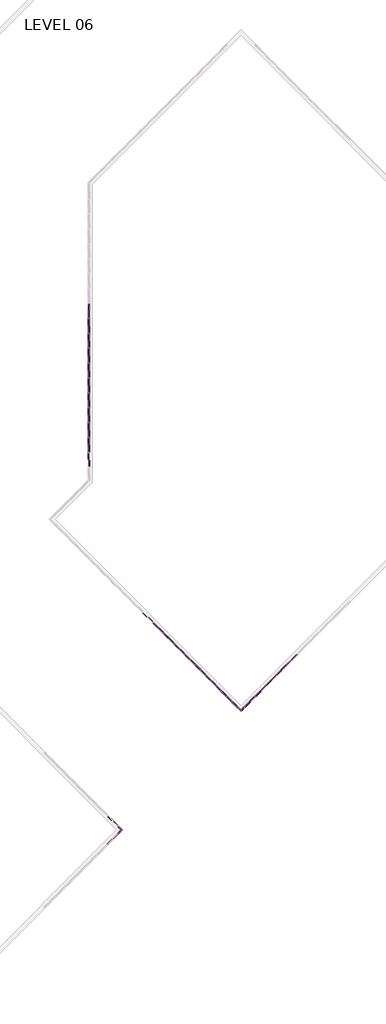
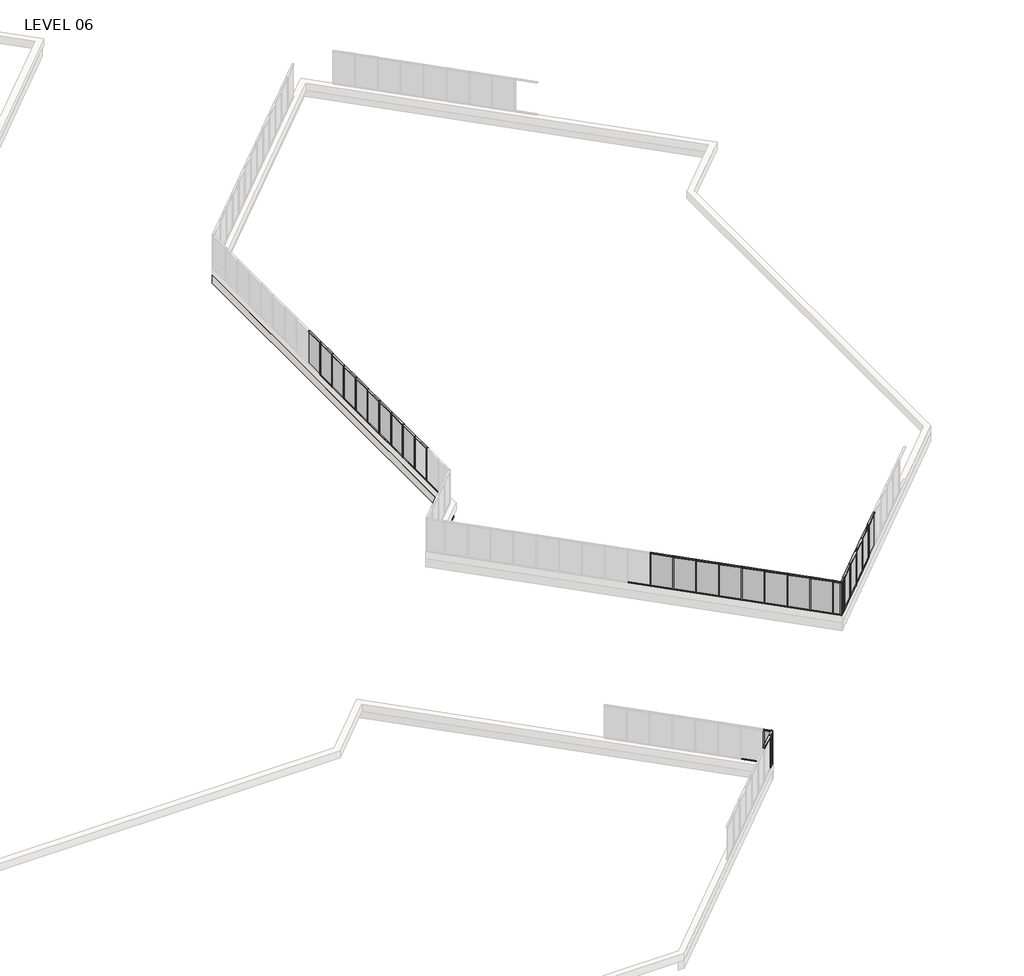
# One storey, part 10 of 17: 86 members, 26 plates, 1 wall.
"""IFC4 building model written with IfcOpenShell, lengths in millimetres."""

from ifc_helpers import new_model, si_unit, origin, place, context, project, spatial, faceted_brep, transform, mapped, element, save
from components import member_5247f267, member_e44af9ab, member_800970d4, member_ac5115e9, member_25b26a38, member_910c08c9, plate_c01932d8, plate_6d527a83, plate_67294edd

model = new_model("IFC4")

# Units and contexts
model_context = context("Model", 3, world=origin())
ifc_project = project(units=[si_unit("LENGTHUNIT", "METRE", prefix="MILLI")], contexts=[model_context])

# Site, building, storey
site = spatial("IfcSite", under=ifc_project)
building = spatial("IfcBuilding", under=site)
storey = spatial("IfcBuildingStorey", under=building, Name="LEVEL 06", Elevation=19596.1)

# Members
placement = place(None, origin())
member_shape = member_5247f267(model_context)
element("IfcMember", 1, ObjectType="Rectangular Mullion : 2\" x 4.5\" rectangular", at=placement, inside=storey, context=model_context, shape_type="MappedRepresentation", body=[
    mapped(member_shape, transform((64227.3404937, 10894.4485141, 19596.1), x_axis=(0.0, 0.0, -1.0), y_axis=(0.7071067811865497, 0.7071067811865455, 0.0), z_axis=(0.7071067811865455, -0.7071067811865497, 0.0))),
])
element("IfcMember", 2, ObjectType="Rectangular Mullion : 2\" x 4.5\" rectangular", at=placement, inside=storey, context=model_context, shape_type="MappedRepresentation", body=[
    mapped(member_shape, transform((64227.5191663, 10093.8459028, 22186.9), x_axis=(0.0, 0.0, 1.0), y_axis=(0.7071067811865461, -0.7071067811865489, 0.0), z_axis=(0.7071067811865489, 0.7071067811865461, 0.0))),
])
member_2_shape = member_e44af9ab(model_context)
element("IfcMember", 3, ObjectType="Rectangular Mullion : 2\" x 4.5\" rectangular", at=placement, inside=storey, context=model_context, shape_type="MappedRepresentation", body=[
    mapped(member_2_shape, transform((64245.4796786, 10111.8064151, 19596.1), x_axis=(0.7071067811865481, 0.7071067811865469, 0.0), y_axis=(0.7071067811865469, -0.7071067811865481, 0.0), z_axis=(0.0, 0.0, -1.0))),
])
element("IfcMember", 4, ObjectType="Rectangular Mullion : 2\" x 4.5\" rectangular", at=placement, inside=storey, context=model_context, shape_type="MappedRepresentation", body=[
    mapped(member_2_shape, transform((64245.3010059, 10876.4880018, 19596.1), x_axis=(-0.7071067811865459, 0.7071067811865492, 0.0), y_axis=(0.7071067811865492, 0.7071067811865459, 0.0), z_axis=(0.0, 0.0, -1.0))),
])
member_3_shape = member_800970d4(model_context)
element("IfcMember", 5, ObjectType="Rectangular Mullion : 2\" x 4.5\" rectangular", at=placement, inside=storey, context=model_context, shape_type="MappedRepresentation", body=[
    mapped(member_3_shape, transform((64627.7311356, 10494.0578721, 19596.1), x_axis=(0.7071067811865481, 0.7071067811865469, 0.0), y_axis=(0.7071067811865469, -0.7071067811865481, 0.0), z_axis=(0.0, 0.0, -1.0))),
])
element("IfcMember", 6, ObjectType="Rectangular Mullion : 2\" x 4.5\" rectangular", at=placement, inside=storey, context=model_context, shape_type="MappedRepresentation", body=[
    mapped(member_3_shape, transform((64627.7311356, 10494.0578721, 22186.9), x_axis=(0.7071067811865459, -0.7071067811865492, 0.0), y_axis=(0.7071067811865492, 0.7071067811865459, 0.0), z_axis=(0.0, 0.0, 1.0))),
])
member_4_shape = member_ac5115e9(model_context)
element("IfcMember", 7, ObjectType="Rectangular Mullion : 2\" x 4.5\" rectangular", at=placement, inside=storey, context=model_context, shape_type="MappedRepresentation", body=[
    mapped(member_4_shape, transform((64591.8101111, 10458.1368476, 22186.9), x_axis=(0.0, 0.0, 1.0), y_axis=(0.7071067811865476, -0.7071067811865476, 0.0), z_axis=(0.7071067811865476, 0.7071067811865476, 0.0))),
])
element("IfcMember", 8, ObjectType="Rectangular Mullion : 2\" x 4.5\" rectangular", at=placement, inside=storey, context=model_context, shape_type="MappedRepresentation", body=[
    mapped(member_4_shape, transform((64263.4401908, 10129.7669273, 19596.1), x_axis=(0.0, 0.0, -1.0), y_axis=(0.7071067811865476, -0.7071067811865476, 0.0), z_axis=(-0.7071067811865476, -0.7071067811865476, 0.0))),
])
member_5_shape = member_25b26a38(model_context)
element("IfcMember", 9, ObjectType="Rectangular Mullion : 2\" x 4.5\" rectangular", at=placement, inside=storey, context=model_context, shape_type="MappedRepresentation", body=[
    mapped(member_5_shape, transform((64591.8101111, 10529.9788966, 19596.1), x_axis=(0.0, 0.0, -1.0), y_axis=(0.7071067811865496, 0.7071067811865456, 0.0), z_axis=(0.7071067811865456, -0.7071067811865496, 0.0))),
])
element("IfcMember", 10, ObjectType="Rectangular Mullion : 2\" x 4.5\" rectangular", at=placement, inside=storey, context=model_context, shape_type="MappedRepresentation", body=[
    mapped(member_5_shape, transform((64263.2615182, 10858.5274896, 22186.9), x_axis=(0.0, 0.0, 1.0), y_axis=(0.7071067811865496, 0.7071067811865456, 0.0), z_axis=(-0.7071067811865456, 0.7071067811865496, 0.0))),
])
element("IfcMember", 11, ObjectType="Rectangular Mullion : 2\" x 4.5\" rectangular", at=placement, inside=storey, context=model_context, shape_type="MappedRepresentation", body=[
    mapped(member_shape, transform((78327.7024202, 24194.0291567, 22186.9), x_axis=(0.0, 0.0, 1.0), y_axis=(-0.7071067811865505, 0.7071067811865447, 0.0), z_axis=(-0.7071067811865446, -0.7071067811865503, 0.0))),
])
element("IfcMember", 12, ObjectType="Rectangular Mullion : 2\" x 4.5\" rectangular", at=placement, inside=storey, context=model_context, shape_type="MappedRepresentation", body=[
    mapped(member_shape, transform((81560.5946238, 27426.9213603, 22186.9), x_axis=(0.0, 0.0, 1.0), y_axis=(-0.7071067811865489, 0.7071067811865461, 0.0), z_axis=(-0.7071067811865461, -0.7071067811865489, 0.0))),
])
element("IfcMember", 13, ObjectType="Rectangular Mullion : 2\" x 4.5\" rectangular", at=placement, inside=storey, context=model_context, shape_type="MappedRepresentation", body=[
    mapped(member_shape, transform((80482.9638893, 26349.2906258, 22186.9), x_axis=(0.0, 0.0, 1.0), y_axis=(-0.7071067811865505, 0.7071067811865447, 0.0), z_axis=(-0.7071067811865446, -0.7071067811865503, 0.0))),
])
element("IfcMember", 14, ObjectType="Rectangular Mullion : 2\" x 4.5\" rectangular", at=placement, inside=storey, context=model_context, shape_type="MappedRepresentation", body=[
    mapped(member_shape, transform((79405.3331548, 25271.6598913, 22186.9), x_axis=(0.0, 0.0, 1.0), y_axis=(-0.7071067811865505, 0.7071067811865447, 0.0), z_axis=(-0.7071067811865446, -0.7071067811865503, 0.0))),
])
element("IfcMember", 15, ObjectType="Rectangular Mullion : 2\" x 4.5\" rectangular", at=placement, inside=storey, context=model_context, shape_type="MappedRepresentation", body=[
    mapped(member_shape, transform((77250.0716857, 23116.3984222, 22186.9), x_axis=(0.0, 0.0, 1.0), y_axis=(-0.7071067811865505, 0.7071067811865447, 0.0), z_axis=(-0.7071067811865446, -0.7071067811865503, 0.0))),
])
element("IfcMember", 16, ObjectType="Rectangular Mullion : 2\" x 4.5\" rectangular", at=placement, inside=storey, context=model_context, shape_type="MappedRepresentation", body=[
    mapped(member_shape, transform((75407.7593644, 24158.2868049, 22186.9), x_axis=(0.0, 0.0, 1.0), y_axis=(0.7071067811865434, 0.7071067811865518, 0.0), z_axis=(-0.7071067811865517, 0.7071067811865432, 0.0))),
])
element("IfcMember", 17, ObjectType="Rectangular Mullion : 2\" x 4.5\" rectangular", at=placement, inside=storey, context=model_context, shape_type="MappedRepresentation", body=[
    mapped(member_shape, transform((74330.1286299, 25235.9175394, 22186.9), x_axis=(0.0, 0.0, 1.0), y_axis=(0.7071067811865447, 0.7071067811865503, 0.0), z_axis=(-0.7071067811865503, 0.7071067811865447, 0.0))),
])
element("IfcMember", 18, ObjectType="Rectangular Mullion : 2\" x 4.5\" rectangular", at=placement, inside=storey, context=model_context, shape_type="MappedRepresentation", body=[
    mapped(member_shape, transform((73252.4978954, 26313.5482739, 22186.9), x_axis=(0.0, 0.0, 1.0), y_axis=(0.7071067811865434, 0.7071067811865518, 0.0), z_axis=(-0.7071067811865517, 0.7071067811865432, 0.0))),
])
element("IfcMember", 19, ObjectType="Rectangular Mullion : 2\" x 4.5\" rectangular", at=placement, inside=storey, context=model_context, shape_type="MappedRepresentation", body=[
    mapped(member_shape, transform((71097.2364263, 28468.809743, 22186.9), x_axis=(0.0, 0.0, 1.0), y_axis=(0.7071067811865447, 0.7071067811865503, 0.0), z_axis=(-0.7071067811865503, 0.7071067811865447, 0.0))),
])
element("IfcMember", 20, ObjectType="Rectangular Mullion : 2\" x 4.5\" rectangular", at=placement, inside=storey, context=model_context, shape_type="MappedRepresentation", body=[
    mapped(member_shape, transform((70019.6056918, 29546.4404775, 22186.9), x_axis=(0.0, 0.0, 1.0), y_axis=(0.7071067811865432, 0.7071067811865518, 0.0), z_axis=(-0.7071067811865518, 0.7071067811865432, 0.0))),
])
element("IfcMember", 21, ObjectType="Rectangular Mullion : 2\" x 4.5\" rectangular", at=placement, inside=storey, context=model_context, shape_type="MappedRepresentation", body=[
    mapped(member_shape, transform((68941.9749572, 30624.071212, 22186.9), x_axis=(0.0, 0.0, 1.0), y_axis=(0.7071067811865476, 0.7071067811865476, 0.0), z_axis=(-0.7071067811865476, 0.7071067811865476, 0.0))),
])
element("IfcMember", 22, ObjectType="Rectangular Mullion : 2\" x 4.5\" rectangular", at=placement, inside=storey, context=model_context, shape_type="MappedRepresentation", body=[
    mapped(member_shape, transform((67864.3442227, 31701.7019466, 22186.9), x_axis=(0.0, 0.0, 1.0), y_axis=(0.7071067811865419, 0.7071067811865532, 0.0), z_axis=(-0.7071067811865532, 0.7071067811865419, 0.0))),
])
element("IfcMember", 23, ObjectType="Rectangular Mullion : 2\" x 4.5\" rectangular", at=placement, inside=storey, context=model_context, shape_type="MappedRepresentation", body=[
    mapped(member_shape, transform((72174.8671608, 27391.1790085, 22186.9), x_axis=(0.0, 0.0, 1.0), y_axis=(0.7071067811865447, 0.7071067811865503, 0.0), z_axis=(-0.7071067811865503, 0.7071067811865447, 0.0))),
])
element("IfcMember", 24, ObjectType="Rectangular Mullion : 2\" x 4.5\" rectangular", at=placement, inside=storey, context=model_context, shape_type="MappedRepresentation", body=[
    mapped(member_shape, transform((61263.7847164, 62877.3675885, 22186.9), x_axis=(0.0, 0.0, 1.0), y_axis=(-1.0, 0.0, 0.0), z_axis=(0.0, -1.0, 0.0))),
])
element("IfcMember", 25, ObjectType="Rectangular Mullion : 2\" x 4.5\" rectangular", at=placement, inside=storey, context=model_context, shape_type="MappedRepresentation", body=[
    mapped(member_shape, transform((61263.7847164, 59829.3675885, 22186.9), x_axis=(0.0, 0.0, 1.0), y_axis=(-1.0, 0.0, 0.0), z_axis=(0.0, -1.0, 0.0))),
])
element("IfcMember", 26, ObjectType="Rectangular Mullion : 2\" x 4.5\" rectangular", at=placement, inside=storey, context=model_context, shape_type="MappedRepresentation", body=[
    mapped(member_shape, transform((61263.7847164, 58305.3675885, 22186.9), x_axis=(0.0, 0.0, 1.0), y_axis=(-1.0, 0.0, 0.0), z_axis=(0.0, -1.0, 0.0))),
])
element("IfcMember", 27, ObjectType="Rectangular Mullion : 2\" x 4.5\" rectangular", at=placement, inside=storey, context=model_context, shape_type="MappedRepresentation", body=[
    mapped(member_shape, transform((61263.7847164, 56781.3675885, 22186.9), x_axis=(0.0, 0.0, 1.0), y_axis=(-1.0, 0.0, 0.0), z_axis=(0.0, -1.0, 0.0))),
])
element("IfcMember", 28, ObjectType="Rectangular Mullion : 2\" x 4.5\" rectangular", at=placement, inside=storey, context=model_context, shape_type="MappedRepresentation", body=[
    mapped(member_shape, transform((61263.7847164, 55257.3675885, 22186.9), x_axis=(0.0, 0.0, 1.0), y_axis=(-1.0, 0.0, 0.0), z_axis=(0.0, -1.0, 0.0))),
])
element("IfcMember", 29, ObjectType="Rectangular Mullion : 2\" x 4.5\" rectangular", at=placement, inside=storey, context=model_context, shape_type="MappedRepresentation", body=[
    mapped(member_shape, transform((61263.7847164, 52209.3675885, 22186.9), x_axis=(0.0, 0.0, 1.0), y_axis=(-1.0, 0.0, 0.0), z_axis=(0.0, -1.0, 0.0))),
])
element("IfcMember", 30, ObjectType="Rectangular Mullion : 2\" x 4.5\" rectangular", at=placement, inside=storey, context=model_context, shape_type="MappedRepresentation", body=[
    mapped(member_shape, transform((61263.7847164, 50685.3675885, 22186.9), x_axis=(0.0, 0.0, 1.0), y_axis=(-1.0, 0.0, 0.0), z_axis=(0.0, -1.0, 0.0))),
])
element("IfcMember", 31, ObjectType="Rectangular Mullion : 2\" x 4.5\" rectangular", at=placement, inside=storey, context=model_context, shape_type="MappedRepresentation", body=[
    mapped(member_shape, transform((61263.7847164, 49161.3675885, 22186.9), x_axis=(0.0, 0.0, 1.0), y_axis=(-1.0, 0.0, 0.0), z_axis=(0.0, -1.0, 0.0))),
])
element("IfcMember", 32, ObjectType="Rectangular Mullion : 2\" x 4.5\" rectangular", at=placement, inside=storey, context=model_context, shape_type="MappedRepresentation", body=[
    mapped(member_shape, transform((61263.7847164, 53733.3675885, 22186.9), x_axis=(0.0, 0.0, 1.0), y_axis=(-1.0, 0.0, 0.0), z_axis=(0.0, -1.0, 0.0))),
])
element("IfcMember", 33, ObjectType="Rectangular Mullion : 2\" x 4.5\" rectangular", at=placement, inside=storey, context=model_context, shape_type="MappedRepresentation", body=[
    mapped(member_shape, transform((61263.7847164, 61353.3675885, 22186.9), x_axis=(0.0, 0.0, 1.0), y_axis=(-1.0, 0.0, 0.0), z_axis=(0.0, -1.0, 0.0))),
])
element("IfcMember", 34, ObjectType="Rectangular Mullion : 2\" x 4.5\" rectangular", at=placement, inside=storey, context=model_context, shape_type="MappedRepresentation", body=[
    mapped(member_shape, transform((78291.7813957, 24158.1081322, 19596.1), x_axis=(0.0, 0.0, -1.0), y_axis=(-0.7071067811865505, 0.7071067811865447, 0.0), z_axis=(0.7071067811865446, 0.7071067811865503, 0.0))),
])
element("IfcMember", 35, ObjectType="Rectangular Mullion : 2\" x 4.5\" rectangular", at=placement, inside=storey, context=model_context, shape_type="MappedRepresentation", body=[
    mapped(member_shape, transform((81524.6735993, 27391.0003358, 19596.1), x_axis=(0.0, 0.0, -1.0), y_axis=(-0.707106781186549, 0.7071067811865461, 0.0), z_axis=(0.7071067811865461, 0.707106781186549, 0.0))),
])
element("IfcMember", 36, ObjectType="Rectangular Mullion : 2\" x 4.5\" rectangular", at=placement, inside=storey, context=model_context, shape_type="MappedRepresentation", body=[
    mapped(member_shape, transform((80447.0428648, 26313.3696013, 19596.1), x_axis=(0.0, 0.0, -1.0), y_axis=(-0.7071067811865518, 0.7071067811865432, 0.0), z_axis=(0.7071067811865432, 0.7071067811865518, 0.0))),
])
element("IfcMember", 37, ObjectType="Rectangular Mullion : 2\" x 4.5\" rectangular", at=placement, inside=storey, context=model_context, shape_type="MappedRepresentation", body=[
    mapped(member_shape, transform((79369.4121303, 25235.7388668, 19596.1), x_axis=(0.0, 0.0, -1.0), y_axis=(-0.7071067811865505, 0.7071067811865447, 0.0), z_axis=(0.7071067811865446, 0.7071067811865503, 0.0))),
])
element("IfcMember", 38, ObjectType="Rectangular Mullion : 2\" x 4.5\" rectangular", at=placement, inside=storey, context=model_context, shape_type="MappedRepresentation", body=[
    mapped(member_shape, transform((75371.8383399, 24194.2078294, 19596.1), x_axis=(0.0, 0.0, -1.0), y_axis=(0.7071067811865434, 0.7071067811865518, 0.0), z_axis=(0.7071067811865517, -0.7071067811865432, 0.0))),
])
element("IfcMember", 39, ObjectType="Rectangular Mullion : 2\" x 4.5\" rectangular", at=placement, inside=storey, context=model_context, shape_type="MappedRepresentation", body=[
    mapped(member_shape, transform((74294.2076054, 25271.8385639, 19596.1), x_axis=(0.0, 0.0, -1.0), y_axis=(0.7071067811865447, 0.7071067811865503, 0.0), z_axis=(0.7071067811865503, -0.7071067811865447, 0.0))),
])
element("IfcMember", 40, ObjectType="Rectangular Mullion : 2\" x 4.5\" rectangular", at=placement, inside=storey, context=model_context, shape_type="MappedRepresentation", body=[
    mapped(member_shape, transform((73216.5768709, 26349.4692984, 19596.1), x_axis=(0.0, 0.0, -1.0), y_axis=(0.7071067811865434, 0.7071067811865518, 0.0), z_axis=(0.7071067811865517, -0.7071067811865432, 0.0))),
])
element("IfcMember", 41, ObjectType="Rectangular Mullion : 2\" x 4.5\" rectangular", at=placement, inside=storey, context=model_context, shape_type="MappedRepresentation", body=[
    mapped(member_shape, transform((71061.3154018, 28504.7307675, 19596.1), x_axis=(0.0, 0.0, -1.0), y_axis=(0.7071067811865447, 0.7071067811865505, 0.0), z_axis=(0.7071067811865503, -0.7071067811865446, 0.0))),
])
element("IfcMember", 42, ObjectType="Rectangular Mullion : 2\" x 4.5\" rectangular", at=placement, inside=storey, context=model_context, shape_type="MappedRepresentation", body=[
    mapped(member_shape, transform((69983.6846673, 29582.361502, 19596.1), x_axis=(0.0, 0.0, -1.0), y_axis=(0.7071067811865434, 0.7071067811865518, 0.0), z_axis=(0.7071067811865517, -0.7071067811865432, 0.0))),
])
element("IfcMember", 43, ObjectType="Rectangular Mullion : 2\" x 4.5\" rectangular", at=placement, inside=storey, context=model_context, shape_type="MappedRepresentation", body=[
    mapped(member_shape, transform((68906.0539328, 30659.9922365, 19596.1), x_axis=(0.0, 0.0, -1.0), y_axis=(0.7071067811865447, 0.7071067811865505, 0.0), z_axis=(0.7071067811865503, -0.7071067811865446, 0.0))),
])
element("IfcMember", 44, ObjectType="Rectangular Mullion : 2\" x 4.5\" rectangular", at=placement, inside=storey, context=model_context, shape_type="MappedRepresentation", body=[
    mapped(member_shape, transform((72138.9461363, 27427.1000329, 19596.1), x_axis=(0.0, 0.0, -1.0), y_axis=(0.7071067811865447, 0.7071067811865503, 0.0), z_axis=(0.7071067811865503, -0.7071067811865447, 0.0))),
])
element("IfcMember", 45, ObjectType="Rectangular Mullion : 2\" x 4.5\" rectangular", at=placement, inside=storey, context=model_context, shape_type="MappedRepresentation", body=[
    mapped(member_shape, transform((76449.4690745, 23116.5770948, 19596.1), x_axis=(0.0, 0.0, -1.0), y_axis=(0.7071067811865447, 0.7071067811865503, 0.0), z_axis=(0.7071067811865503, -0.7071067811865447, 0.0))),
])
element("IfcMember", 46, ObjectType="Rectangular Mullion : 2\" x 4.5\" rectangular", at=placement, inside=storey, context=model_context, shape_type="MappedRepresentation", body=[
    mapped(member_shape, transform((61263.7847164, 62826.5675885, 19596.1), x_axis=(0.0, 0.0, -1.0), y_axis=(-1.0, 0.0, 0.0), z_axis=(0.0, 1.0, 0.0))),
])
element("IfcMember", 47, ObjectType="Rectangular Mullion : 2\" x 4.5\" rectangular", at=placement, inside=storey, context=model_context, shape_type="MappedRepresentation", body=[
    mapped(member_shape, transform((61263.7847164, 59778.5675885, 19596.1), x_axis=(0.0, 0.0, -1.0), y_axis=(-1.0, 0.0, 0.0), z_axis=(0.0, 1.0, 0.0))),
])
element("IfcMember", 48, ObjectType="Rectangular Mullion : 2\" x 4.5\" rectangular", at=placement, inside=storey, context=model_context, shape_type="MappedRepresentation", body=[
    mapped(member_shape, transform((61263.7847164, 58254.5675885, 19596.1), x_axis=(0.0, 0.0, -1.0), y_axis=(-1.0, 0.0, 0.0), z_axis=(0.0, 1.0, 0.0))),
])
element("IfcMember", 49, ObjectType="Rectangular Mullion : 2\" x 4.5\" rectangular", at=placement, inside=storey, context=model_context, shape_type="MappedRepresentation", body=[
    mapped(member_shape, transform((61263.7847164, 56730.5675885, 19596.1), x_axis=(0.0, 0.0, -1.0), y_axis=(-1.0, 0.0, 0.0), z_axis=(0.0, 1.0, 0.0))),
])
element("IfcMember", 50, ObjectType="Rectangular Mullion : 2\" x 4.5\" rectangular", at=placement, inside=storey, context=model_context, shape_type="MappedRepresentation", body=[
    mapped(member_shape, transform((61263.7847164, 55206.5675885, 19596.1), x_axis=(0.0, 0.0, -1.0), y_axis=(-1.0, 0.0, 0.0), z_axis=(0.0, 1.0, 0.0))),
])
element("IfcMember", 51, ObjectType="Rectangular Mullion : 2\" x 4.5\" rectangular", at=placement, inside=storey, context=model_context, shape_type="MappedRepresentation", body=[
    mapped(member_shape, transform((61263.7847164, 52158.5675885, 19596.1), x_axis=(0.0, 0.0, -1.0), y_axis=(-1.0, 0.0, 0.0), z_axis=(0.0, 1.0, 0.0))),
])
element("IfcMember", 52, ObjectType="Rectangular Mullion : 2\" x 4.5\" rectangular", at=placement, inside=storey, context=model_context, shape_type="MappedRepresentation", body=[
    mapped(member_shape, transform((61263.7847164, 50634.5675885, 19596.1), x_axis=(0.0, 0.0, -1.0), y_axis=(-1.0, 0.0, 0.0), z_axis=(0.0, 1.0, 0.0))),
])
element("IfcMember", 53, ObjectType="Rectangular Mullion : 2\" x 4.5\" rectangular", at=placement, inside=storey, context=model_context, shape_type="MappedRepresentation", body=[
    mapped(member_shape, transform((61263.7847164, 49110.5675885, 19596.1), x_axis=(0.0, 0.0, -1.0), y_axis=(-1.0, 0.0, 0.0), z_axis=(0.0, 1.0, 0.0))),
])
element("IfcMember", 54, ObjectType="Rectangular Mullion : 2\" x 4.5\" rectangular", at=placement, inside=storey, context=model_context, shape_type="MappedRepresentation", body=[
    mapped(member_shape, transform((61263.7847164, 53682.5675885, 19596.1), x_axis=(0.0, 0.0, -1.0), y_axis=(-1.0, 0.0, 0.0), z_axis=(0.0, 1.0, 0.0))),
])
element("IfcMember", 55, ObjectType="Rectangular Mullion : 2\" x 4.5\" rectangular", at=placement, inside=storey, context=model_context, shape_type="MappedRepresentation", body=[
    mapped(member_shape, transform((61263.7847164, 61302.5675885, 19596.1), x_axis=(0.0, 0.0, -1.0), y_axis=(-1.0, 0.0, 0.0), z_axis=(0.0, 1.0, 0.0))),
])
element("IfcMember", 56, ObjectType="Rectangular Mullion : 2\" x 4.5\" rectangular", at=placement, inside=storey, context=model_context, shape_type="MappedRepresentation", body=[
    mapped(member_2_shape, transform((78309.741908, 24176.0686445, 19596.1), x_axis=(-0.7071067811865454, -0.7071067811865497, 0.0), y_axis=(-0.7071067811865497, 0.7071067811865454, 0.0), z_axis=(0.0, 0.0, -1.0))),
])
element("IfcMember", 57, ObjectType="Rectangular Mullion : 2\" x 4.5\" rectangular", at=placement, inside=storey, context=model_context, shape_type="MappedRepresentation", body=[
    mapped(member_2_shape, transform((81542.6341116, 27408.9608481, 19596.1), x_axis=(-0.7071067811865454, -0.7071067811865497, 0.0), y_axis=(-0.7071067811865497, 0.7071067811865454, 0.0), z_axis=(0.0, 0.0, -1.0))),
])
element("IfcMember", 58, ObjectType="Rectangular Mullion : 2\" x 4.5\" rectangular", at=placement, inside=storey, context=model_context, shape_type="MappedRepresentation", body=[
    mapped(member_2_shape, transform((80465.003377, 26331.3301135, 19596.1), x_axis=(-0.7071067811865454, -0.7071067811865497, 0.0), y_axis=(-0.7071067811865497, 0.7071067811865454, 0.0), z_axis=(0.0, 0.0, -1.0))),
])
element("IfcMember", 59, ObjectType="Rectangular Mullion : 2\" x 4.5\" rectangular", at=placement, inside=storey, context=model_context, shape_type="MappedRepresentation", body=[
    mapped(member_2_shape, transform((79387.3726425, 25253.699379, 19596.1), x_axis=(-0.7071067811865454, -0.7071067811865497, 0.0), y_axis=(-0.7071067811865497, 0.7071067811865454, 0.0), z_axis=(0.0, 0.0, -1.0))),
])
element("IfcMember", 60, ObjectType="Rectangular Mullion : 2\" x 4.5\" rectangular", at=placement, inside=storey, context=model_context, shape_type="MappedRepresentation", body=[
    mapped(member_2_shape, transform((77232.1111735, 23098.43791, 19596.1), x_axis=(-0.7071067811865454, -0.7071067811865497, 0.0), y_axis=(-0.7071067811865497, 0.7071067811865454, 0.0), z_axis=(0.0, 0.0, -1.0))),
])
element("IfcMember", 61, ObjectType="Rectangular Mullion : 2\" x 4.5\" rectangular", at=placement, inside=storey, context=model_context, shape_type="MappedRepresentation", body=[
    mapped(member_2_shape, transform((75389.7988522, 24176.2473171, 19596.1), x_axis=(-0.7071067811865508, 0.7071067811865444, 0.0), y_axis=(0.7071067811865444, 0.7071067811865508, 0.0), z_axis=(0.0, 0.0, -1.0))),
])
element("IfcMember", 62, ObjectType="Rectangular Mullion : 2\" x 4.5\" rectangular", at=placement, inside=storey, context=model_context, shape_type="MappedRepresentation", body=[
    mapped(member_2_shape, transform((74312.1681176, 25253.8780517, 19596.1), x_axis=(-0.7071067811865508, 0.7071067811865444, 0.0), y_axis=(0.7071067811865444, 0.7071067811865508, 0.0), z_axis=(0.0, 0.0, -1.0))),
])
element("IfcMember", 63, ObjectType="Rectangular Mullion : 2\" x 4.5\" rectangular", at=placement, inside=storey, context=model_context, shape_type="MappedRepresentation", body=[
    mapped(member_2_shape, transform((73234.5373831, 26331.5087862, 19596.1), x_axis=(-0.7071067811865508, 0.7071067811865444, 0.0), y_axis=(0.7071067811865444, 0.7071067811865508, 0.0), z_axis=(0.0, 0.0, -1.0))),
])
element("IfcMember", 64, ObjectType="Rectangular Mullion : 2\" x 4.5\" rectangular", at=placement, inside=storey, context=model_context, shape_type="MappedRepresentation", body=[
    mapped(member_2_shape, transform((71079.2759141, 28486.7702552, 19596.1), x_axis=(-0.7071067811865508, 0.7071067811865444, 0.0), y_axis=(0.7071067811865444, 0.7071067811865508, 0.0), z_axis=(0.0, 0.0, -1.0))),
])
element("IfcMember", 65, ObjectType="Rectangular Mullion : 2\" x 4.5\" rectangular", at=placement, inside=storey, context=model_context, shape_type="MappedRepresentation", body=[
    mapped(member_2_shape, transform((70001.6451795, 29564.4009898, 19596.1), x_axis=(-0.7071067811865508, 0.7071067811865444, 0.0), y_axis=(0.7071067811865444, 0.7071067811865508, 0.0), z_axis=(0.0, 0.0, -1.0))),
])
element("IfcMember", 66, ObjectType="Rectangular Mullion : 2\" x 4.5\" rectangular", at=placement, inside=storey, context=model_context, shape_type="MappedRepresentation", body=[
    mapped(member_2_shape, transform((68924.014445, 30642.0317243, 19596.1), x_axis=(-0.7071067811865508, 0.7071067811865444, 0.0), y_axis=(0.7071067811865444, 0.7071067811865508, 0.0), z_axis=(0.0, 0.0, -1.0))),
])
element("IfcMember", 67, ObjectType="Rectangular Mullion : 2\" x 4.5\" rectangular", at=placement, inside=storey, context=model_context, shape_type="MappedRepresentation", body=[
    mapped(member_2_shape, transform((67846.3837105, 31719.6624588, 19596.1), x_axis=(-0.7071067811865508, 0.7071067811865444, 0.0), y_axis=(0.7071067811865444, 0.7071067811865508, 0.0), z_axis=(0.0, 0.0, -1.0))),
])
element("IfcMember", 68, ObjectType="Rectangular Mullion : 2\" x 4.5\" rectangular", at=placement, inside=storey, context=model_context, shape_type="MappedRepresentation", body=[
    mapped(member_2_shape, transform((72156.9066486, 27409.1395207, 19596.1), x_axis=(-0.7071067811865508, 0.7071067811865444, 0.0), y_axis=(0.7071067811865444, 0.7071067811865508, 0.0), z_axis=(0.0, 0.0, -1.0))),
])
element("IfcMember", 69, ObjectType="Rectangular Mullion : 2\" x 4.5\" rectangular", at=placement, inside=storey, context=model_context, shape_type="MappedRepresentation", body=[
    mapped(member_2_shape, transform((76467.4295867, 23098.6165826, 19596.1), x_axis=(-0.7071067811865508, 0.7071067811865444, 0.0), y_axis=(0.7071067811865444, 0.7071067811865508, 0.0), z_axis=(0.0, 0.0, -1.0))),
])
element("IfcMember", 70, ObjectType="Rectangular Mullion : 2\" x 4.5\" rectangular", at=placement, inside=storey, context=model_context, shape_type="MappedRepresentation", body=[
    mapped(member_2_shape, transform((61263.7847164, 62851.9675885, 19596.1), x_axis=(0.0, -1.0, 0.0), y_axis=(-1.0, 0.0, 0.0), z_axis=(0.0, 0.0, -1.0))),
])
element("IfcMember", 71, ObjectType="Rectangular Mullion : 2\" x 4.5\" rectangular", at=placement, inside=storey, context=model_context, shape_type="MappedRepresentation", body=[
    mapped(member_2_shape, transform((61263.7847164, 59803.9675885, 19596.1), x_axis=(0.0, -1.0, 0.0), y_axis=(-1.0, 0.0, 0.0), z_axis=(0.0, 0.0, -1.0))),
])
element("IfcMember", 72, ObjectType="Rectangular Mullion : 2\" x 4.5\" rectangular", at=placement, inside=storey, context=model_context, shape_type="MappedRepresentation", body=[
    mapped(member_2_shape, transform((61263.7847164, 58279.9675885, 19596.1), x_axis=(0.0, -1.0, 0.0), y_axis=(-1.0, 0.0, 0.0), z_axis=(0.0, 0.0, -1.0))),
])
element("IfcMember", 73, ObjectType="Rectangular Mullion : 2\" x 4.5\" rectangular", at=placement, inside=storey, context=model_context, shape_type="MappedRepresentation", body=[
    mapped(member_2_shape, transform((61263.7847164, 56755.9675885, 19596.1), x_axis=(0.0, -1.0, 0.0), y_axis=(-1.0, 0.0, 0.0), z_axis=(0.0, 0.0, -1.0))),
])
element("IfcMember", 74, ObjectType="Rectangular Mullion : 2\" x 4.5\" rectangular", at=placement, inside=storey, context=model_context, shape_type="MappedRepresentation", body=[
    mapped(member_2_shape, transform((61263.7847164, 55231.9675885, 19596.1), x_axis=(0.0, -1.0, 0.0), y_axis=(-1.0, 0.0, 0.0), z_axis=(0.0, 0.0, -1.0))),
])
element("IfcMember", 75, ObjectType="Rectangular Mullion : 2\" x 4.5\" rectangular", at=placement, inside=storey, context=model_context, shape_type="MappedRepresentation", body=[
    mapped(member_2_shape, transform((61263.7847164, 52183.9675885, 19596.1), x_axis=(0.0, -1.0, 0.0), y_axis=(-1.0, 0.0, 0.0), z_axis=(0.0, 0.0, -1.0))),
])
element("IfcMember", 76, ObjectType="Rectangular Mullion : 2\" x 4.5\" rectangular", at=placement, inside=storey, context=model_context, shape_type="MappedRepresentation", body=[
    mapped(member_2_shape, transform((61263.7847164, 50659.9675885, 19596.1), x_axis=(0.0, -1.0, 0.0), y_axis=(-1.0, 0.0, 0.0), z_axis=(0.0, 0.0, -1.0))),
])
element("IfcMember", 77, ObjectType="Rectangular Mullion : 2\" x 4.5\" rectangular", at=placement, inside=storey, context=model_context, shape_type="MappedRepresentation", body=[
    mapped(member_2_shape, transform((61263.7847164, 49135.9675885, 19596.1), x_axis=(0.0, -1.0, 0.0), y_axis=(-1.0, 0.0, 0.0), z_axis=(0.0, 0.0, -1.0))),
])
element("IfcMember", 78, ObjectType="Rectangular Mullion : 2\" x 4.5\" rectangular", at=placement, inside=storey, context=model_context, shape_type="MappedRepresentation", body=[
    mapped(member_2_shape, transform((61263.7847164, 53707.9675885, 19596.1), x_axis=(0.0, -1.0, 0.0), y_axis=(-1.0, 0.0, 0.0), z_axis=(0.0, 0.0, -1.0))),
])
element("IfcMember", 79, ObjectType="Rectangular Mullion : 2\" x 4.5\" rectangular", at=placement, inside=storey, context=model_context, shape_type="MappedRepresentation", body=[
    mapped(member_2_shape, transform((61263.7847164, 61327.9675885, 19596.1), x_axis=(0.0, -1.0, 0.0), y_axis=(-1.0, 0.0, 0.0), z_axis=(0.0, 0.0, -1.0))),
])
element("IfcMember", 80, ObjectType="Rectangular Mullion : 2\" x 4.5\" rectangular", at=placement, inside=storey, context=model_context, shape_type="MappedRepresentation", body=[
    mapped(member_3_shape, transform((76849.8597164, 22716.1864529, 19596.1), x_axis=(-0.7071067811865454, -0.7071067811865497, 0.0), y_axis=(-0.7071067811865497, 0.7071067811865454, 0.0), z_axis=(0.0, 0.0, -1.0))),
])
element("IfcMember", 81, ObjectType="Rectangular Mullion : 2\" x 4.5\" rectangular", at=placement, inside=storey, context=model_context, shape_type="MappedRepresentation", body=[
    mapped(member_3_shape, transform((76849.8597164, 22716.1864529, 22186.9), x_axis=(0.7071067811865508, -0.7071067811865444, 0.0), y_axis=(0.7071067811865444, 0.7071067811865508, 0.0), z_axis=(0.0, 0.0, 1.0))),
])
element("IfcMember", 82, ObjectType="Rectangular Mullion : 2\" x 4.5\" rectangular", at=placement, inside=storey, context=model_context, shape_type="MappedRepresentation", body=[
    mapped(member_5_shape, transform((76485.3900989, 23080.6560704, 22186.9), x_axis=(0.0, 0.0, 1.0), y_axis=(0.7071067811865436, 0.7071067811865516, 0.0), z_axis=(-0.7071067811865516, 0.7071067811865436, 0.0))),
])
element("IfcMember", 83, ObjectType="Rectangular Mullion : 2\" x 4.5\" rectangular", at=placement, inside=storey, context=model_context, shape_type="MappedRepresentation", body=[
    mapped(member_5_shape, transform((76813.9386919, 22752.1074774, 19596.1), x_axis=(0.0, 0.0, -1.0), y_axis=(0.7071067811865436, 0.7071067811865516, 0.0), z_axis=(0.7071067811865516, -0.7071067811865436, 0.0))),
])
element("IfcMember", 84, ObjectType="Rectangular Mullion : 2\" x 4.5\" rectangular", at=placement, inside=storey, context=model_context, shape_type="MappedRepresentation", body=[
    mapped(member_4_shape, transform((76885.7807409, 22752.1074774, 22186.9), x_axis=(0.0, 0.0, 1.0), y_axis=(-0.7071067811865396, 0.7071067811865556, 0.0), z_axis=(-0.7071067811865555, -0.7071067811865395, 0.0))),
])
element("IfcMember", 85, ObjectType="Rectangular Mullion : 2\" x 4.5\" rectangular", at=placement, inside=storey, context=model_context, shape_type="MappedRepresentation", body=[
    mapped(member_4_shape, transform((77214.1506612, 23080.4773977, 19596.1), x_axis=(0.0, 0.0, -1.0), y_axis=(-0.7071067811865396, 0.7071067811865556, 0.0), z_axis=(0.7071067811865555, 0.7071067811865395, 0.0))),
])
member_6_shape = member_910c08c9(model_context)
element("IfcMember", 86, ObjectType="Rectangular Mullion : 2\" x 4.5\" rectangular", at=placement, inside=storey, context=model_context, shape_type="MappedRepresentation", body=[
    mapped(member_6_shape, transform((67828.4231982, 31737.6229711, 19596.1), x_axis=(0.0, 0.0, -1.0), y_axis=(0.7071067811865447, 0.7071067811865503, 0.0), z_axis=(0.7071067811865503, -0.7071067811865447, 0.0))),
])

# Plates
plate_shape = plate_c01932d8(model_context)
element("IfcPlate", 87, ObjectType="System Panel : 1/4\" Glass", at=placement, inside=storey, context=model_context, shape_type="MappedRepresentation", body=[
    mapped(plate_shape, transform((64427.625151, 10293.9518875, 19646.9), x_axis=(0.7071067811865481, 0.7071067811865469, 0.0), y_axis=(-0.7071067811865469, 0.7071067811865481, 0.0), z_axis=(0.0, 0.0, 1.0))),
])
plate_2_shape = plate_6d527a83(model_context)
element("IfcPlate", 88, ObjectType="System Panel : 1/4\" Glass", at=placement, inside=storey, context=model_context, shape_type="MappedRepresentation", body=[
    mapped(plate_2_shape, transform((64427.5358147, 10694.2531931, 19646.9), x_axis=(-0.7071067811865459, 0.7071067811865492, 0.0), y_axis=(-0.7071067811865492, -0.7071067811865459, 0.0), z_axis=(0.0, 0.0, 1.0))),
])
plate_3_shape = plate_67294edd(model_context)
element("IfcPlate", 89, ObjectType="System Panel : 1/4\" Glass", at=placement, inside=storey, context=model_context, shape_type="MappedRepresentation", body=[
    mapped(plate_3_shape, transform((77770.9265407, 23637.2532772, 19646.9), x_axis=(-0.7071067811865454, -0.7071067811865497, 0.0), y_axis=(0.7071067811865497, -0.7071067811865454, 0.0), z_axis=(0.0, 0.0, 1.0))),
])
element("IfcPlate", 90, ObjectType="System Panel : 1/4\" Glass", at=placement, inside=storey, context=model_context, shape_type="MappedRepresentation", body=[
    mapped(plate_3_shape, transform((81003.8187443, 26870.1454808, 19646.9), x_axis=(-0.7071067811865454, -0.7071067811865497, 0.0), y_axis=(0.7071067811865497, -0.7071067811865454, 0.0), z_axis=(0.0, 0.0, 1.0))),
])
element("IfcPlate", 91, ObjectType="System Panel : 1/4\" Glass", at=placement, inside=storey, context=model_context, shape_type="MappedRepresentation", body=[
    mapped(plate_3_shape, transform((82081.4494788, 27947.7762153, 19646.9), x_axis=(-0.7071067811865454, -0.7071067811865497, 0.0), y_axis=(0.7071067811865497, -0.7071067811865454, 0.0), z_axis=(0.0, 0.0, 1.0))),
])
element("IfcPlate", 92, ObjectType="System Panel : 1/4\" Glass", at=placement, inside=storey, context=model_context, shape_type="MappedRepresentation", body=[
    mapped(plate_3_shape, transform((79926.1880098, 25792.5147463, 19646.9), x_axis=(-0.7071067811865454, -0.7071067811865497, 0.0), y_axis=(0.7071067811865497, -0.7071067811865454, 0.0), z_axis=(0.0, 0.0, 1.0))),
])
element("IfcPlate", 93, ObjectType="System Panel : 1/4\" Glass", at=placement, inside=storey, context=model_context, shape_type="MappedRepresentation", body=[
    mapped(plate_3_shape, transform((78848.5572753, 24714.8840117, 19646.9), x_axis=(-0.7071067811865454, -0.7071067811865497, 0.0), y_axis=(0.7071067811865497, -0.7071067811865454, 0.0), z_axis=(0.0, 0.0, 1.0))),
])
element("IfcPlate", 94, ObjectType="System Panel : 1/4\" Glass", at=placement, inside=storey, context=model_context, shape_type="MappedRepresentation", body=[
    mapped(plate_3_shape, transform((74850.9834849, 24715.0626844, 19646.9), x_axis=(-0.7071067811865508, 0.7071067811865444, 0.0), y_axis=(-0.7071067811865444, -0.7071067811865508, 0.0), z_axis=(0.0, 0.0, 1.0))),
])
element("IfcPlate", 95, ObjectType="System Panel : 1/4\" Glass", at=placement, inside=storey, context=model_context, shape_type="MappedRepresentation", body=[
    mapped(plate_3_shape, transform((73773.3527504, 25792.6934189, 19646.9), x_axis=(-0.7071067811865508, 0.7071067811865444, 0.0), y_axis=(-0.7071067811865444, -0.7071067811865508, 0.0), z_axis=(0.0, 0.0, 1.0))),
])
element("IfcPlate", 96, ObjectType="System Panel : 1/4\" Glass", at=placement, inside=storey, context=model_context, shape_type="MappedRepresentation", body=[
    mapped(plate_3_shape, transform((72695.7220159, 26870.3241534, 19646.9), x_axis=(-0.7071067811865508, 0.7071067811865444, 0.0), y_axis=(-0.7071067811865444, -0.7071067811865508, 0.0), z_axis=(0.0, 0.0, 1.0))),
])
element("IfcPlate", 97, ObjectType="System Panel : 1/4\" Glass", at=placement, inside=storey, context=model_context, shape_type="MappedRepresentation", body=[
    mapped(plate_3_shape, transform((70540.4605468, 29025.5856225, 19646.9), x_axis=(-0.7071067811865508, 0.7071067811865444, 0.0), y_axis=(-0.7071067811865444, -0.7071067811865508, 0.0), z_axis=(0.0, 0.0, 1.0))),
])
element("IfcPlate", 98, ObjectType="System Panel : 1/4\" Glass", at=placement, inside=storey, context=model_context, shape_type="MappedRepresentation", body=[
    mapped(plate_3_shape, transform((69462.8298123, 30103.216357, 19646.9), x_axis=(-0.7071067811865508, 0.7071067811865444, 0.0), y_axis=(-0.7071067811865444, -0.7071067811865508, 0.0), z_axis=(0.0, 0.0, 1.0))),
])
element("IfcPlate", 99, ObjectType="System Panel : 1/4\" Glass", at=placement, inside=storey, context=model_context, shape_type="MappedRepresentation", body=[
    mapped(plate_3_shape, transform((68385.1990777, 31180.8470916, 19646.9), x_axis=(-0.7071067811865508, 0.7071067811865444, 0.0), y_axis=(-0.7071067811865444, -0.7071067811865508, 0.0), z_axis=(0.0, 0.0, 1.0))),
])
element("IfcPlate", 100, ObjectType="System Panel : 1/4\" Glass", at=placement, inside=storey, context=model_context, shape_type="MappedRepresentation", body=[
    mapped(plate_3_shape, transform((71618.0912813, 27947.954888, 19646.9), x_axis=(-0.7071067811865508, 0.7071067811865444, 0.0), y_axis=(-0.7071067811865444, -0.7071067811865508, 0.0), z_axis=(0.0, 0.0, 1.0))),
])
element("IfcPlate", 101, ObjectType="System Panel : 1/4\" Glass", at=placement, inside=storey, context=model_context, shape_type="MappedRepresentation", body=[
    mapped(plate_3_shape, transform((75928.6142194, 23637.4319499, 19646.9), x_axis=(-0.7071067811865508, 0.7071067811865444, 0.0), y_axis=(-0.7071067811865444, -0.7071067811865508, 0.0), z_axis=(0.0, 0.0, 1.0))),
])
element("IfcPlate", 102, ObjectType="System Panel : 1/4\" Glass", at=placement, inside=storey, context=model_context, shape_type="MappedRepresentation", body=[
    mapped(plate_3_shape, transform((61263.7847164, 63613.9675885, 19646.9), x_axis=(0.0, -1.0, 0.0), y_axis=(1.0, 0.0, 0.0), z_axis=(0.0, 0.0, 1.0))),
])
element("IfcPlate", 103, ObjectType="System Panel : 1/4\" Glass", at=placement, inside=storey, context=model_context, shape_type="MappedRepresentation", body=[
    mapped(plate_3_shape, transform((61263.7847164, 62089.9675885, 19646.9), x_axis=(0.0, -1.0, 0.0), y_axis=(1.0, 0.0, 0.0), z_axis=(0.0, 0.0, 1.0))),
])
element("IfcPlate", 104, ObjectType="System Panel : 1/4\" Glass", at=placement, inside=storey, context=model_context, shape_type="MappedRepresentation", body=[
    mapped(plate_3_shape, transform((61263.7847164, 59041.9675885, 19646.9), x_axis=(0.0, -1.0, 0.0), y_axis=(1.0, 0.0, 0.0), z_axis=(0.0, 0.0, 1.0))),
])
element("IfcPlate", 105, ObjectType="System Panel : 1/4\" Glass", at=placement, inside=storey, context=model_context, shape_type="MappedRepresentation", body=[
    mapped(plate_3_shape, transform((61263.7847164, 57517.9675885, 19646.9), x_axis=(0.0, -1.0, 0.0), y_axis=(1.0, 0.0, 0.0), z_axis=(0.0, 0.0, 1.0))),
])
element("IfcPlate", 106, ObjectType="System Panel : 1/4\" Glass", at=placement, inside=storey, context=model_context, shape_type="MappedRepresentation", body=[
    mapped(plate_3_shape, transform((61263.7847164, 55993.9675885, 19646.9), x_axis=(0.0, -1.0, 0.0), y_axis=(1.0, 0.0, 0.0), z_axis=(0.0, 0.0, 1.0))),
])
element("IfcPlate", 107, ObjectType="System Panel : 1/4\" Glass", at=placement, inside=storey, context=model_context, shape_type="MappedRepresentation", body=[
    mapped(plate_3_shape, transform((61263.7847164, 54469.9675885, 19646.9), x_axis=(0.0, -1.0, 0.0), y_axis=(1.0, 0.0, 0.0), z_axis=(0.0, 0.0, 1.0))),
])
element("IfcPlate", 108, ObjectType="System Panel : 1/4\" Glass", at=placement, inside=storey, context=model_context, shape_type="MappedRepresentation", body=[
    mapped(plate_3_shape, transform((61263.7847164, 51421.9675885, 19646.9), x_axis=(0.0, -1.0, 0.0), y_axis=(1.0, 0.0, 0.0), z_axis=(0.0, 0.0, 1.0))),
])
element("IfcPlate", 109, ObjectType="System Panel : 1/4\" Glass", at=placement, inside=storey, context=model_context, shape_type="MappedRepresentation", body=[
    mapped(plate_3_shape, transform((61263.7847164, 52945.9675885, 19646.9), x_axis=(0.0, -1.0, 0.0), y_axis=(1.0, 0.0, 0.0), z_axis=(0.0, 0.0, 1.0))),
])
element("IfcPlate", 110, ObjectType="System Panel : 1/4\" Glass", at=placement, inside=storey, context=model_context, shape_type="MappedRepresentation", body=[
    mapped(plate_3_shape, transform((61263.7847164, 60565.9675885, 19646.9), x_axis=(0.0, -1.0, 0.0), y_axis=(1.0, 0.0, 0.0), z_axis=(0.0, 0.0, 1.0))),
])
element("IfcPlate", 111, ObjectType="System Panel : 1/4\" Glass", at=placement, inside=storey, context=model_context, shape_type="MappedRepresentation", body=[
    mapped(plate_2_shape, transform((76649.6643954, 22916.3817739, 19646.9), x_axis=(-0.7071067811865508, 0.7071067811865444, 0.0), y_axis=(-0.7071067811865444, -0.7071067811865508, 0.0), z_axis=(0.0, 0.0, 1.0))),
])
element("IfcPlate", 112, ObjectType="System Panel : 1/4\" Glass", at=placement, inside=storey, context=model_context, shape_type="MappedRepresentation", body=[
    mapped(plate_shape, transform((77049.9657011, 22916.2924375, 19646.9), x_axis=(-0.7071067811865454, -0.7071067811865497, 0.0), y_axis=(0.7071067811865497, -0.7071067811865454, 0.0), z_axis=(0.0, 0.0, 1.0))),
])

# Wall
element("IfcWall", 113, ObjectType="01-CONCRETE-12", at=placement, inside=storey, context=model_context, shape_type="Brep", body=[
    faceted_brep([(61206.6347164, 76757.3460292, 18415.0), (61206.6347164, 46277.3460292, 18415.0), (61206.6347164, 45846.2937354, 18415.0), (61206.6347164, 45846.2937354, 19037.3), (61206.6347164, 46277.3460292, 19037.3), (61206.6347164, 76757.3460292, 19037.3), (61511.4347164, 77062.1460292, 18415.0), (61511.4347164, 77062.1460292, 19037.3), (61511.4347164, 76631.0937354, 19037.3), (61511.4347164, 76348.8311968, 19037.3), (61511.4347164, 69252.7675885, 19037.3), (61511.4347164, 68643.1675885, 19037.3), (61511.4347164, 61632.7675885, 19037.3), (61511.4347164, 61023.1675885, 19037.3), (61511.4347164, 54012.7675885, 19037.3), (61511.4347164, 53403.1675885, 19037.3), (61511.4347164, 46392.7675885, 19037.3), (61511.4347164, 46151.0937354, 19037.3), (61511.4347164, 46151.0937354, 18415.0), (61511.4347164, 46392.7675885, 18415.0), (61511.4347164, 53403.1675885, 18415.0), (61511.4347164, 54012.7675885, 18415.0), (61511.4347164, 61023.1675885, 18415.0), (61511.4347164, 61632.7675885, 18415.0), (61511.4347164, 68643.1675885, 18415.0), (61511.4347164, 69252.7675885, 18415.0), (61511.4347164, 76348.8311968, 18415.0), (61511.4347164, 76631.0937354, 18415.0), (61460.6347164, 46100.2937354, 18415.0), (61460.6347164, 46100.2937354, 19037.3)], [[[0, 1, 2, 3, 4, 5]], [[6, 7, 8, 9, 10, 11, 12, 13, 14, 15, 16, 17, 18, 19, 20, 21, 22, 23, 24, 25, 26, 27]], [[2, 1, 0, 6, 27, 26, 25, 24, 23, 22, 21, 20, 19, 18, 28]], [[5, 4, 3, 29, 17, 16, 15, 14, 13, 12, 11, 10, 9, 8, 7]], [[3, 2, 28, 18, 17, 29]], [[0, 5, 7, 6]]]),
])

save(model, "model.ifc")
